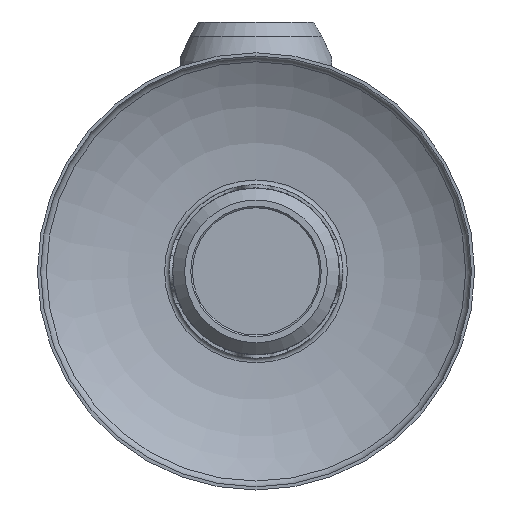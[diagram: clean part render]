
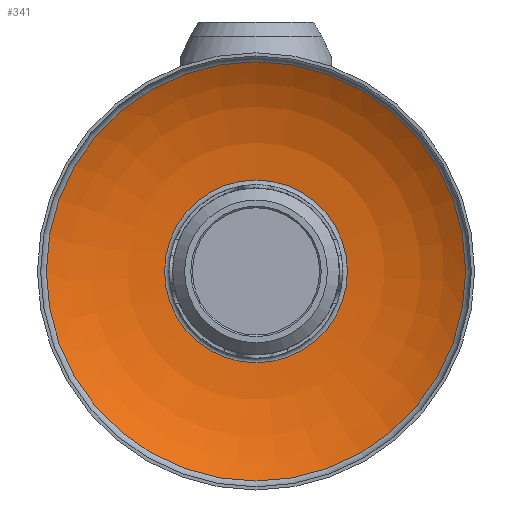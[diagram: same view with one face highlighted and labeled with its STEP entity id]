
A CAD part, front view. The second image highlights one B-rep face of the part: STEP entity #341.
In plain terms, the highlighted toroidal (fillet/blend) face has major radius 11.5 mm and minor radius 27.248 mm.
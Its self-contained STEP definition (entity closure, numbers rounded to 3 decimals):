
#341=ADVANCED_FACE('',(#4097,#4099),#4101,.F.);
#4097=FACE_OUTER_BOUND('',#4098,.T.);
#4098=EDGE_LOOP('',(#5588));
#4099=FACE_OUTER_BOUND('',#4100,.T.);
#4100=EDGE_LOOP('',(#5589));
#4101=DEGENERATE_TOROIDAL_SURFACE('',#4102,11.5,27.248,.T.);
#4102=AXIS2_PLACEMENT_3D('',#4103,#4104,#4105);
#4103=CARTESIAN_POINT('',(0.,-62.448,0.));
#4104=DIRECTION('',(0.,-1.,0.));
#4105=DIRECTION('',(0.,0.,1.));
#5588=ORIENTED_EDGE('',*,*,#6381,.F.);
#5589=ORIENTED_EDGE('',*,*,#6379,.T.);
#6379=EDGE_CURVE('',#7470,#7470,#7471,.T.);
#6381=EDGE_CURVE('',#7474,#7474,#7475,.T.);
#7470=VERTEX_POINT('',#12454);
#7471=CIRCLE('',#12455,26.373);
#7474=VERTEX_POINT('',#12464);
#7475=CIRCLE('',#12465,11.5);
#12454=CARTESIAN_POINT('',(0.,-39.617,26.373));
#12455=AXIS2_PLACEMENT_3D('',#12456,#12457,#12458);
#12456=CARTESIAN_POINT('',(0.,-39.617,0.));
#12457=DIRECTION('',(0.,-1.,0.));
#12458=DIRECTION('',(0.,0.,1.));
#12464=CARTESIAN_POINT('',(0.,-35.2,11.5));
#12465=AXIS2_PLACEMENT_3D('',#12466,#12467,#12468);
#12466=CARTESIAN_POINT('',(0.,-35.2,0.));
#12467=DIRECTION('',(0.,-1.,0.));
#12468=DIRECTION('',(0.,0.,1.));
